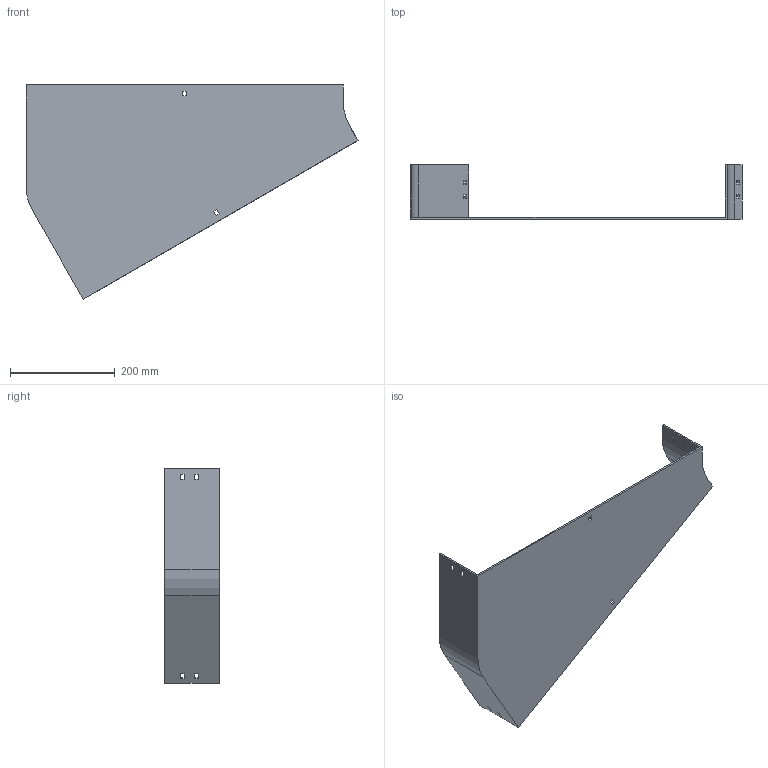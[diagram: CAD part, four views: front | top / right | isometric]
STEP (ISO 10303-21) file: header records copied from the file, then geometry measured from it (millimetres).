
FILE_DESCRIPTION (( 'STEP AP214' ), '1' );
FILE_NAME ('12F1D600.step', '2025-02-21T12:53:48', ( '' ), ( '' ), 'SwSTEP 2.0', 'SolidWorks 2023', '' );
FILE_SCHEMA (( 'AUTOMOTIVE_DESIGN' ));
Length unit declared in the file: millimetre
Products named in the file (1): 12F1D600
Bounding box: 632.4 x 104 x 407.98 mm (x, y, z)
Volume: 772792.5 mm3; surface area: 450319.1 mm2
Topology: 1 solids, 1 shells, 58 faces, 168 edges, 112 vertices
Faces by surface type: plane 54, cylinder 4
Entity records: 1943 total; most frequent: CARTESIAN_POINT 339, ORIENTED_EDGE 336, DIRECTION 294, EDGE_CURVE 168, LINE 160, VECTOR 160, VERTEX_POINT 112, EDGE_LOOP 78
